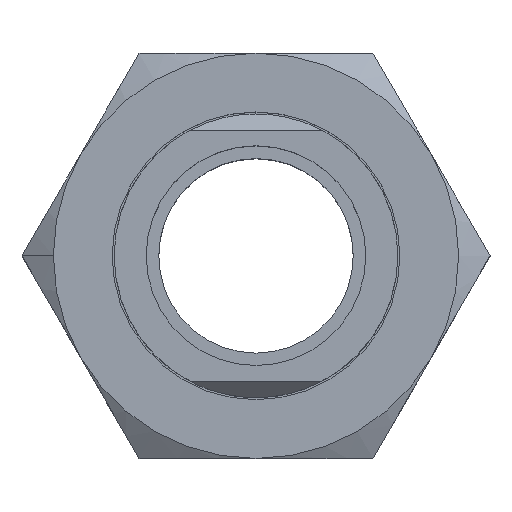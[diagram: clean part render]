
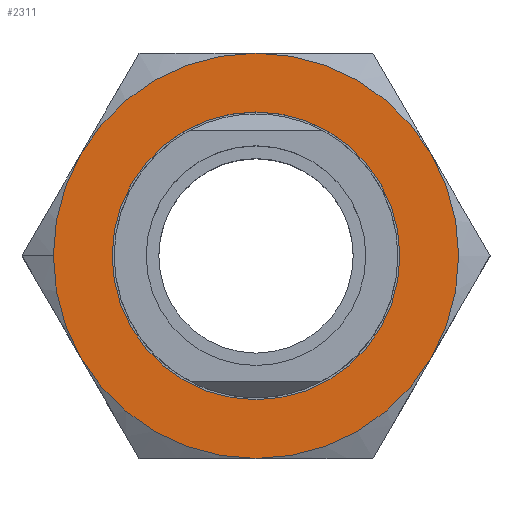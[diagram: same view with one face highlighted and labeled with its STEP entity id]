
A CAD part, top view. The second image highlights one B-rep face of the part: STEP entity #2311.
In plain terms, the highlighted planar face has unit normal (0, 0, 1).
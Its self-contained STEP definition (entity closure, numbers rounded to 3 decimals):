
#47 = EDGE_CURVE ( 'NONE', #100, #49, #349, .T. ) ;
#48 = EDGE_CURVE ( 'NONE', #49, #153, #344, .T. ) ;
#49 = VERTEX_POINT ( 'NONE', #339 ) ;
#66 = EDGE_CURVE ( 'NONE', #154, #92, #404, .T. ) ;
#70 = ORIENTED_EDGE ( 'NONE', *, *, #47, .T. ) ;
#82 = VERTEX_POINT ( 'NONE', #438 ) ;
#91 = EDGE_CURVE ( 'NONE', #92, #82, #422, .T. ) ;
#92 = VERTEX_POINT ( 'NONE', #462 ) ;
#97 = VERTEX_POINT ( 'NONE', #452 ) ;
#100 = VERTEX_POINT ( 'NONE', #493 ) ;
#103 = EDGE_CURVE ( 'NONE', #97, #100, #479, .T. ) ;
#110 = EDGE_CURVE ( 'NONE', #82, #97, #519, .T. ) ;
#139 = VERTEX_POINT ( 'NONE', #560 ) ;
#152 = EDGE_CURVE ( 'NONE', #153, #154, #587, .T. ) ;
#153 = VERTEX_POINT ( 'NONE', #642 ) ;
#154 = VERTEX_POINT ( 'NONE', #641 ) ;
#192 = EDGE_CURVE ( 'NONE', #139, #193, #720, .T. ) ;
#193 = VERTEX_POINT ( 'NONE', #715 ) ;
#339 = CARTESIAN_POINT ( 'NONE',  ( -21.651, 12.5, 11.5 ) ) ;
#340 = DIRECTION ( 'NONE',  ( 1., 0., 0. ) ) ;
#341 = DIRECTION ( 'NONE',  ( 0., 0., 1. ) ) ;
#342 = CARTESIAN_POINT ( 'NONE',  ( 0., 0., 11.5 ) ) ;
#343 = AXIS2_PLACEMENT_3D ( 'NONE', #342, #341, #340 ) ;
#344 = CIRCLE ( 'NONE', #343, 25. ) ;
#345 = DIRECTION ( 'NONE',  ( 1., 0., 0. ) ) ;
#346 = DIRECTION ( 'NONE',  ( 0., 0., 1. ) ) ;
#347 = CARTESIAN_POINT ( 'NONE',  ( 0., 0., 11.5 ) ) ;
#348 = AXIS2_PLACEMENT_3D ( 'NONE', #347, #346, #345 ) ;
#349 = CIRCLE ( 'NONE', #348, 25. ) ;
#353 = CARTESIAN_POINT ( 'NONE',  ( 0., 0., 11.5 ) ) ;
#401 = DIRECTION ( 'NONE',  ( 1., 0., 0. ) ) ;
#402 = DIRECTION ( 'NONE',  ( 0., 0., 1. ) ) ;
#403 = AXIS2_PLACEMENT_3D ( 'NONE', #353, #402, #401 ) ;
#404 = CIRCLE ( 'NONE', #403, 25. ) ;
#421 = AXIS2_PLACEMENT_3D ( 'NONE', #465, #464, #463 ) ;
#422 = CIRCLE ( 'NONE', #421, 25. ) ;
#438 = CARTESIAN_POINT ( 'NONE',  ( 21.651, -12.5, 11.5 ) ) ;
#452 = CARTESIAN_POINT ( 'NONE',  ( 21.651, 12.5, 11.5 ) ) ;
#462 = CARTESIAN_POINT ( 'NONE',  ( 0., -25., 11.5 ) ) ;
#463 = DIRECTION ( 'NONE',  ( 1., 0., 0. ) ) ;
#464 = DIRECTION ( 'NONE',  ( 0., 0., 1. ) ) ;
#465 = CARTESIAN_POINT ( 'NONE',  ( 0., 0., 11.5 ) ) ;
#475 = DIRECTION ( 'NONE',  ( 1., 0., 0. ) ) ;
#476 = DIRECTION ( 'NONE',  ( 0., 0., 1. ) ) ;
#477 = CARTESIAN_POINT ( 'NONE',  ( 0., 0., 11.5 ) ) ;
#478 = AXIS2_PLACEMENT_3D ( 'NONE', #477, #476, #475 ) ;
#479 = CIRCLE ( 'NONE', #478, 25. ) ;
#493 = CARTESIAN_POINT ( 'NONE',  ( 0., 25., 11.5 ) ) ;
#505 = DIRECTION ( 'NONE',  ( 1., 0., 0. ) ) ;
#506 = DIRECTION ( 'NONE',  ( 0., 0., 1. ) ) ;
#507 = CARTESIAN_POINT ( 'NONE',  ( 0., 0., 11.5 ) ) ;
#508 = AXIS2_PLACEMENT_3D ( 'NONE', #507, #506, #505 ) ;
#519 = CIRCLE ( 'NONE', #508, 25. ) ;
#560 = CARTESIAN_POINT ( 'NONE',  ( -17.75, 0., 11.5 ) ) ;
#584 = DIRECTION ( 'NONE',  ( 0., 0., 1. ) ) ;
#585 = CARTESIAN_POINT ( 'NONE',  ( 0., 0., 11.5 ) ) ;
#586 = AXIS2_PLACEMENT_3D ( 'NONE', #585, #584, #643 ) ;
#587 = CIRCLE ( 'NONE', #586, 25. ) ;
#641 = CARTESIAN_POINT ( 'NONE',  ( -21.651, -12.5, 11.5 ) ) ;
#642 = CARTESIAN_POINT ( 'NONE',  ( -25., 0., 11.5 ) ) ;
#643 = DIRECTION ( 'NONE',  ( 1., 0., 0. ) ) ;
#715 = CARTESIAN_POINT ( 'NONE',  ( 17.75, 0., 11.5 ) ) ;
#716 = DIRECTION ( 'NONE',  ( 1., 0., 0. ) ) ;
#717 = DIRECTION ( 'NONE',  ( 0., 0., 1. ) ) ;
#718 = CARTESIAN_POINT ( 'NONE',  ( 0., 0., 11.5 ) ) ;
#719 = AXIS2_PLACEMENT_3D ( 'NONE', #718, #717, #716 ) ;
#720 = CIRCLE ( 'NONE', #719, 17.75 ) ;
#957 = DIRECTION ( 'NONE',  ( 1., 0., 0. ) ) ;
#958 = DIRECTION ( 'NONE',  ( 0., 0., 1. ) ) ;
#959 = CARTESIAN_POINT ( 'NONE',  ( 0., 0., 11.5 ) ) ;
#960 = AXIS2_PLACEMENT_3D ( 'NONE', #959, #958, #957 ) ;
#961 = CIRCLE ( 'NONE', #960, 17.75 ) ;
#1393 = DIRECTION ( 'NONE',  ( -1., 0., 0. ) ) ;
#1394 = DIRECTION ( 'NONE',  ( 0., 0., -1. ) ) ;
#1395 = CARTESIAN_POINT ( 'NONE',  ( 0., 25., 11.5 ) ) ;
#1396 = AXIS2_PLACEMENT_3D ( 'NONE', #1395, #1394, #1393 ) ;
#1398 = PLANE ( 'NONE',  #1396 ) ;
#1401 = FACE_OUTER_BOUND ( 'NONE', #2307, .T. ) ;
#1402 = FACE_BOUND ( 'NONE', #2305, .T. ) ;
#2061 = EDGE_CURVE ( 'NONE', #193, #139, #961, .T. ) ;
#2305 = EDGE_LOOP ( 'NONE', ( #2310, #2306 ) ) ;
#2306 = ORIENTED_EDGE ( 'NONE', *, *, #192, .F. ) ;
#2307 = EDGE_LOOP ( 'NONE', ( #2309, #70, #2313, #2312, #2315, #2316, #2314 ) ) ;
#2309 = ORIENTED_EDGE ( 'NONE', *, *, #103, .T. ) ;
#2310 = ORIENTED_EDGE ( 'NONE', *, *, #2061, .F. ) ;
#2311 = ADVANCED_FACE ( 'NONE', ( #1402, #1401 ), #1398, .F. ) ;
#2312 = ORIENTED_EDGE ( 'NONE', *, *, #152, .T. ) ;
#2313 = ORIENTED_EDGE ( 'NONE', *, *, #48, .T. ) ;
#2314 = ORIENTED_EDGE ( 'NONE', *, *, #110, .T. ) ;
#2315 = ORIENTED_EDGE ( 'NONE', *, *, #66, .T. ) ;
#2316 = ORIENTED_EDGE ( 'NONE', *, *, #91, .T. ) ;
